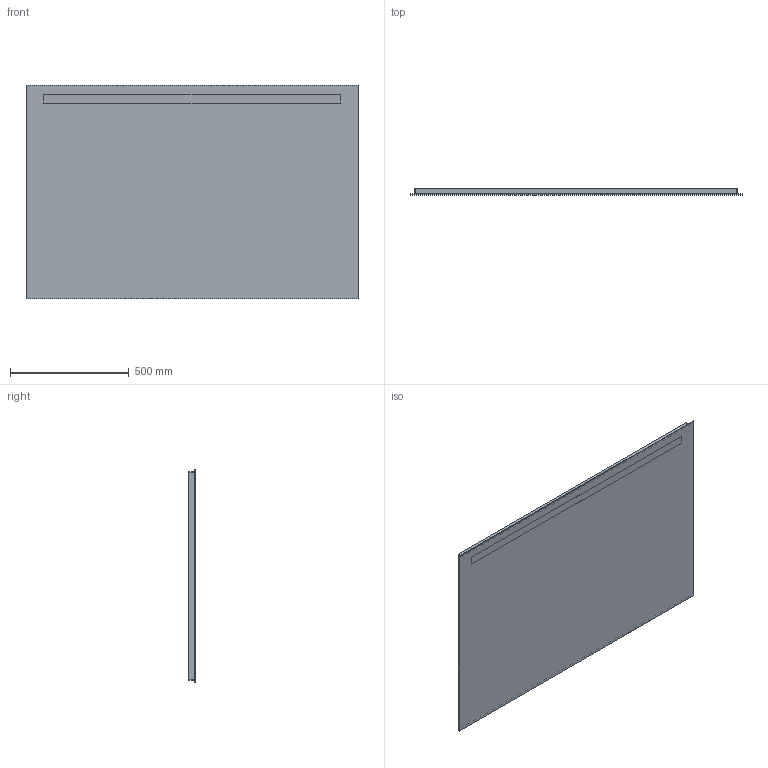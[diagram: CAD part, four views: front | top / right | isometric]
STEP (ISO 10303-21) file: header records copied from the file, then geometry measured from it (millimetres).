
FILE_DESCRIPTION(/* description */ (''),/* implementation_level */ '2;1');
FILE_NAME(/* name */ 'C:\Planerdaten\Export PLA\502.816.00.1\stp\502816.stp',/* time_stamp */ '2022-12-02T15:17:59+01:00',/* author */ ('JANAN'),/* organization */ (''),/* preprocessor_version */ 'ST-DEVELOPER v18.1',/* originating_system */ 'Autodesk Inventor 2021',/* authorisation */ '');
FILE_SCHEMA (('AUTOMOTIVE_DESIGN { 1 0 10303 214 3 1 1 }'));
Length unit declared in the file: millimetre
Products named in the file (1): tmpC65B.tmp
Bounding box: 1400 x 26 x 900 mm (x, y, z)
Volume: 31363044.4 mm3; surface area: 5031693.5 mm2
Topology: 2 solids, 2 shells, 29 faces, 68 edges, 48 vertices
Faces by surface type: plane 21, cylinder 8
Full cylindrical faces by diameter (mm): 8 x4
Entity records: 937 total; most frequent: DIRECTION 152, CARTESIAN_POINT 146, ORIENTED_EDGE 136, EDGE_CURVE 68, AXIS2_PLACEMENT_3D 54, VERTEX_POINT 48, LINE 44, VECTOR 44
